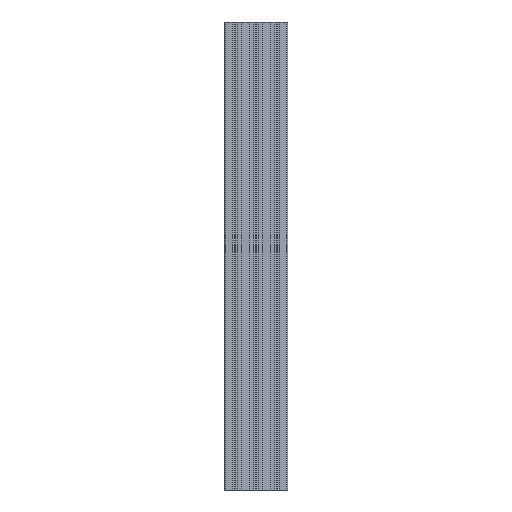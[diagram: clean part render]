
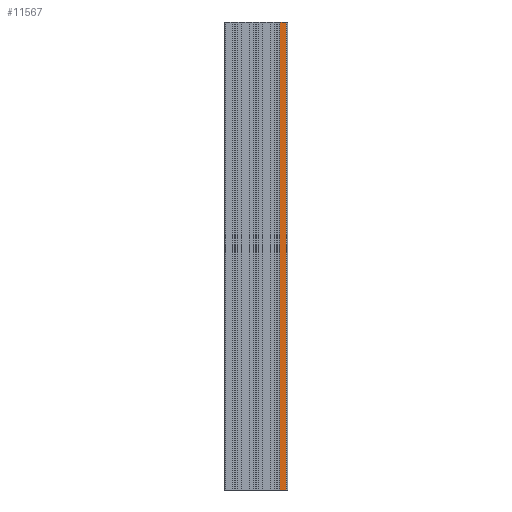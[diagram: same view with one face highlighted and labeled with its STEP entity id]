
A CAD part, front view. The second image highlights one B-rep face of the part: STEP entity #11567.
In plain terms, the highlighted planar face has unit normal (0, -1, 0).
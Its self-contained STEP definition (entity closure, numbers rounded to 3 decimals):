
#865 = FACE_OUTER_BOUND ( 'NONE', #32452, .T. ) ;
#2082 = VERTEX_POINT ( 'NONE', #23901 ) ;
#5485 = VERTEX_POINT ( 'NONE', #22677 ) ;
#7308 = ORIENTED_EDGE ( 'NONE', *, *, #39634, .F. ) ;
#7974 = EDGE_CURVE ( 'NONE', #29782, #42038, #39173, .T. ) ;
#8521 = LINE ( 'NONE', #29671, #35000 ) ;
#9109 = ORIENTED_EDGE ( 'NONE', *, *, #7974, .T. ) ;
#9315 = ORIENTED_EDGE ( 'NONE', *, *, #10880, .T. ) ;
#9355 = DIRECTION ( 'NONE',  ( -1., 0., 0. ) ) ;
#10880 = EDGE_CURVE ( 'NONE', #42038, #5485, #31205, .T. ) ;
#11314 = CARTESIAN_POINT ( 'NONE',  ( 0., -68.35, 1000. ) ) ;
#11567 = ADVANCED_FACE ( 'NONE', ( #865 ), #32542, .T. ) ;
#12392 = CARTESIAN_POINT ( 'NONE',  ( 0., -68.35, 0. ) ) ;
#15006 = DIRECTION ( 'NONE',  ( 0., -1., 0. ) ) ;
#15523 = DIRECTION ( 'NONE',  ( 0., 0., -1. ) ) ;
#19869 = CARTESIAN_POINT ( 'NONE',  ( 0., -68.35, 1000. ) ) ;
#20377 = AXIS2_PLACEMENT_3D ( 'NONE', #11314, #15006, #39606 ) ;
#21859 = VECTOR ( 'NONE', #34152, 1000. ) ;
#22185 = CARTESIAN_POINT ( 'NONE',  ( 50.25, -68.35, 1000. ) ) ;
#22677 = CARTESIAN_POINT ( 'NONE',  ( 50.25, -68.35, 0. ) ) ;
#23416 = VECTOR ( 'NONE', #26477, 1000. ) ;
#23901 = CARTESIAN_POINT ( 'NONE',  ( 64.15, -68.35, 0. ) ) ;
#26477 = DIRECTION ( 'NONE',  ( -1., 0., 0. ) ) ;
#29671 = CARTESIAN_POINT ( 'NONE',  ( 64.15, -68.35, 1000. ) ) ;
#29782 = VERTEX_POINT ( 'NONE', #37632 ) ;
#29831 = VECTOR ( 'NONE', #9355, 1000. ) ;
#31205 = LINE ( 'NONE', #44598, #21859 ) ;
#32452 = EDGE_LOOP ( 'NONE', ( #7308, #39070, #9109, #9315 ) ) ;
#32542 = PLANE ( 'NONE',  #20377 ) ;
#32793 = LINE ( 'NONE', #12392, #23416 ) ;
#34152 = DIRECTION ( 'NONE',  ( 0., 0., -1. ) ) ;
#35000 = VECTOR ( 'NONE', #15523, 1000. ) ;
#37632 = CARTESIAN_POINT ( 'NONE',  ( 64.15, -68.35, 1000. ) ) ;
#39070 = ORIENTED_EDGE ( 'NONE', *, *, #42720, .F. ) ;
#39173 = LINE ( 'NONE', #19869, #29831 ) ;
#39606 = DIRECTION ( 'NONE',  ( 0., 0., -1. ) ) ;
#39634 = EDGE_CURVE ( 'NONE', #2082, #5485, #32793, .T. ) ;
#42038 = VERTEX_POINT ( 'NONE', #22185 ) ;
#42720 = EDGE_CURVE ( 'NONE', #29782, #2082, #8521, .T. ) ;
#44598 = CARTESIAN_POINT ( 'NONE',  ( 50.25, -68.35, 1000. ) ) ;
